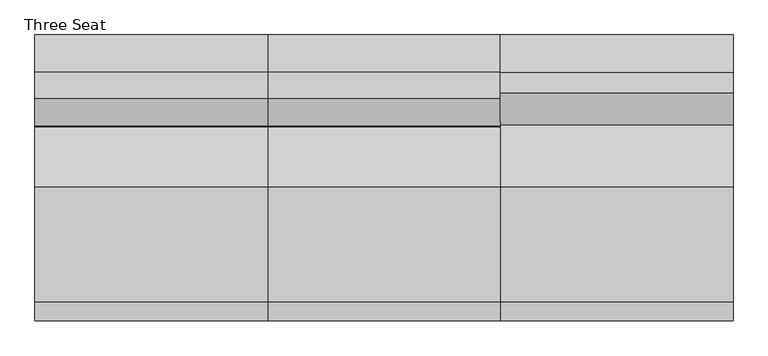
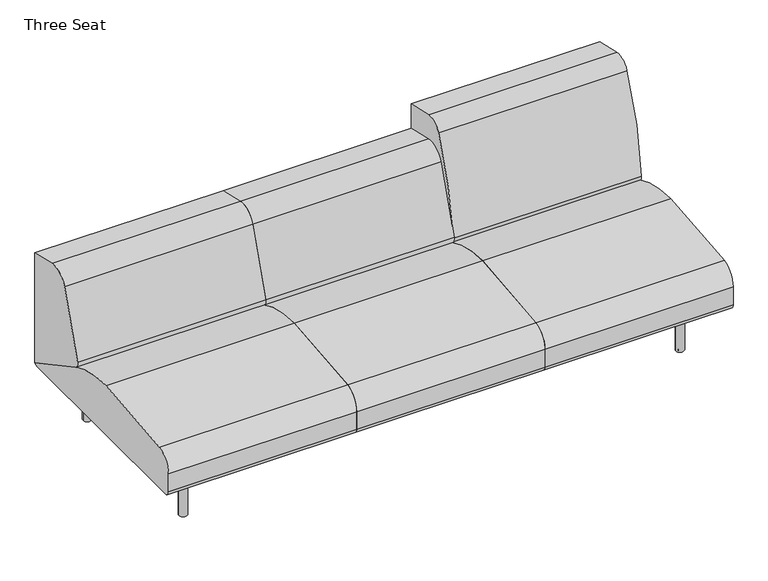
"""IFC4 building model written with IfcOpenShell, lengths in millimetres: furniture geometry, Coalesse_AM_Seating_LoungeChair_Sistema_LegBase_ThreeSeat : Three Seat."""

from ifc_helpers import new_model, si_unit, point, frame, frame_2d, origin, origin_with_axes, place, context, project, spatial, polyline, circle_curve, trimmed, segment, composite_curve, outline, extrude, source, transform, mapped, element, save


def three_seat_c6795c9c(model_context):
    return source(origin(), model_context, "Body", "SweptSolid", [
        extrude(outline(composite_curve([segment(polyline([(459.4795619, 673.6041325), (459.4795619, 228.1929806)]), True, "CONTINUOUS"), segment(trimmed(circle_curve(frame_2d((191.495971, 228.1929806)), 267.983591), [point((459.4795619, 228.1929806))], [point((458.9860775, 211.937276))], False, "CARTESIAN"), True, "CONTINUOUS"), segment(polyline([(458.9860775, 211.937276), (177.4990556, 364.1028799)]), True, "CONTINUOUS"), segment(trimmed(circle_curve(frame_2d((189.5778307, 386.4470781)), 25.4), [point((177.4990556, 364.1028799))], [point((164.9600055, 392.7018911))], False, "CARTESIAN"), True, "CONTINUOUS"), segment(trimmed(circle_curve(frame_2d((1918.112812, -52.7331923)), 1808.8552115), [point((164.9600055, 392.7018911))], [point((254.1018253, 656.5090883))], False, "CARTESIAN"), True, "CONTINUOUS"), segment(trimmed(circle_curve(frame_2d((324.2001043, 626.6314831)), 76.2), [point((254.1018253, 656.5090883))], [point((341.3413746, 700.8784821))], False, "CARTESIAN"), True, "CONTINUOUS"), segment(polyline([(341.3413746, 700.8784821), (459.4795619, 673.6041325)]), True, "CONTINUOUS")], self_intersect=False)), frame((-374.8034773, 0.0, 0.0), z_axis=(1.0, 0.0, 0.0), x_axis=(0.0, 1.0, 0.0)), (0.0, 0.0, 1.0), 749.3),
        extrude(outline(composite_curve([segment(trimmed(circle_curve(frame_2d((-438.9184381, 226.822)), 22.352), [point((-438.9184381, 204.47))], [point((-461.2704381, 226.822))], False, "CARTESIAN"), True, "CONTINUOUS"), segment(polyline([(-461.2704381, 226.822), (-461.2704381, 301.4421993)]), True, "CONTINUOUS"), segment(trimmed(circle_curve(frame_2d((-385.0704381, 301.4421993)), 76.2), [point((-461.2704381, 301.4421993))], [point((-398.9277015, 376.3716077))], False, "CARTESIAN"), True, "CONTINUOUS"), segment(trimmed(circle_curve(frame_2d((2.2103559, -1792.6740646)), 2205.8265729), [point((-398.9277015, 376.3716077))], [point((-31.1968175, 412.8995185))], False, "CARTESIAN"), True, "CONTINUOUS"), segment(trimmed(circle_curve(frame_2d((-24.5128424, -28.3829182)), 441.333054), [point((-31.1968175, 412.8995185))], [point((184.5757008, 360.2774035))], False, "CARTESIAN"), True, "CONTINUOUS"), segment(polyline([(184.5757008, 360.2774035), (458.9860775, 211.937276)]), True, "CONTINUOUS"), segment(trimmed(circle_curve(frame_2d((442.3266309, 226.7871991)), 22.3171991), [point((458.9860775, 211.937276))], [point((442.3266309, 204.47))], False, "CARTESIAN"), True, "CONTINUOUS"), segment(polyline([(442.3266309, 204.47), (-438.9184381, 204.47)]), True, "CONTINUOUS")], self_intersect=False)), frame((-374.8034773, 0.0, 0.0), z_axis=(1.0, 0.0, 0.0), x_axis=(0.0, 1.0, 0.0)), (0.0, 0.0, 1.0), 749.3),
        extrude(outline(composite_curve([segment(polyline([(459.4795619, 673.6041325), (459.4795619, 228.1929806)]), True, "CONTINUOUS"), segment(trimmed(circle_curve(frame_2d((191.495971, 228.1929806)), 267.983591), [point((459.4795619, 228.1929806))], [point((458.9860775, 211.937276))], False, "CARTESIAN"), True, "CONTINUOUS"), segment(polyline([(458.9860775, 211.937276), (177.4990556, 364.1028799)]), True, "CONTINUOUS"), segment(trimmed(circle_curve(frame_2d((189.5778307, 386.4470781)), 25.4), [point((177.4990556, 364.1028799))], [point((164.9600055, 392.7018911))], False, "CARTESIAN"), True, "CONTINUOUS"), segment(trimmed(circle_curve(frame_2d((1918.112812, -52.7331923)), 1808.8552115), [point((164.9600055, 392.7018911))], [point((254.1018253, 656.5090883))], False, "CARTESIAN"), True, "CONTINUOUS"), segment(trimmed(circle_curve(frame_2d((324.2001043, 626.6314831)), 76.2), [point((254.1018253, 656.5090883))], [point((341.3413746, 700.8784821))], False, "CARTESIAN"), True, "CONTINUOUS"), segment(polyline([(341.3413746, 700.8784821), (459.4795619, 673.6041325)]), True, "CONTINUOUS")], self_intersect=False)), frame((374.4965227, 0.0, 0.0), z_axis=(1.0, 0.0, 0.0), x_axis=(0.0, 1.0, 0.0)), (0.0, 0.0, 1.0), 749.3),
        extrude(outline(composite_curve([segment(trimmed(circle_curve(frame_2d((-438.9184381, 226.822)), 22.352), [point((-438.9184381, 204.47))], [point((-461.2704381, 226.822))], False, "CARTESIAN"), True, "CONTINUOUS"), segment(polyline([(-461.2704381, 226.822), (-461.2704381, 301.4421993)]), True, "CONTINUOUS"), segment(trimmed(circle_curve(frame_2d((-385.0704381, 301.4421993)), 76.2), [point((-461.2704381, 301.4421993))], [point((-398.9277015, 376.3716077))], False, "CARTESIAN"), True, "CONTINUOUS"), segment(trimmed(circle_curve(frame_2d((2.2103559, -1792.6740646)), 2205.8265729), [point((-398.9277015, 376.3716077))], [point((-31.1968175, 412.8995185))], False, "CARTESIAN"), True, "CONTINUOUS"), segment(trimmed(circle_curve(frame_2d((-24.5128424, -28.3829182)), 441.333054), [point((-31.1968175, 412.8995185))], [point((184.5757008, 360.2774035))], False, "CARTESIAN"), True, "CONTINUOUS"), segment(polyline([(184.5757008, 360.2774035), (458.9860775, 211.937276)]), True, "CONTINUOUS"), segment(trimmed(circle_curve(frame_2d((442.3266309, 226.7871991)), 22.3171991), [point((458.9860775, 211.937276))], [point((442.3266309, 204.47))], False, "CARTESIAN"), True, "CONTINUOUS"), segment(polyline([(442.3266309, 204.47), (-438.9184381, 204.47)]), True, "CONTINUOUS")], self_intersect=False)), frame((374.4965227, 0.0, 0.0), z_axis=(1.0, 0.0, 0.0), x_axis=(0.0, 1.0, 0.0)), (0.0, 0.0, 1.0), 749.3),
        extrude(outline(composite_curve([segment(polyline([(459.4795619, 775.8234697), (459.4795619, 228.1929806)]), True, "CONTINUOUS"), segment(trimmed(circle_curve(frame_2d((191.495971, 228.1929806)), 267.983591), [point((459.4795619, 228.1929806))], [point((458.9860775, 211.937276))], False, "CARTESIAN"), True, "CONTINUOUS"), segment(polyline([(458.9860775, 211.937276), (183.8457951, 360.6719742)]), True, "CONTINUOUS"), segment(trimmed(circle_curve(frame_2d((195.9245701, 383.0161724)), 25.4), [point((183.8457951, 360.6719742))], [point((170.6161698, 385.1713698))], False, "CARTESIAN"), True, "CONTINUOUS"), segment(trimmed(circle_curve(frame_2d((1327.5544182, 286.6495247)), 1161.1256023), [point((170.6161698, 385.1713698))], [point((271.1088001, 768.4537592))], False, "CARTESIAN"), True, "CONTINUOUS"), segment(trimmed(circle_curve(frame_2d((326.5730192, 743.158661)), 60.96), [point((271.1088001, 768.4537592))], [point((339.9143278, 802.6408523))], False, "CARTESIAN"), True, "CONTINUOUS"), segment(polyline([(339.9143278, 802.6408523), (459.4795619, 775.8234697)]), True, "CONTINUOUS")], self_intersect=False)), frame((1123.7965227, 0.0, 0.0), z_axis=(1.0, 0.0, 0.0), x_axis=(0.0, 1.0, 0.0)), (0.0, 0.0, 1.0), 749.3),
        extrude(outline(composite_curve([segment(trimmed(circle_curve(frame_2d((-438.9184381, 226.822)), 22.352), [point((-438.9184381, 204.47))], [point((-461.2704381, 226.822))], False, "CARTESIAN"), True, "CONTINUOUS"), segment(polyline([(-461.2704381, 226.822), (-461.2704381, 301.4421993)]), True, "CONTINUOUS"), segment(trimmed(circle_curve(frame_2d((-385.0704381, 301.4421993)), 76.2), [point((-461.2704381, 301.4421993))], [point((-398.9277015, 376.3716077))], False, "CARTESIAN"), True, "CONTINUOUS"), segment(trimmed(circle_curve(frame_2d((2.2103559, -1792.6740646)), 2205.8265729), [point((-398.9277015, 376.3716077))], [point((-31.1968175, 412.8995185))], False, "CARTESIAN"), True, "CONTINUOUS"), segment(trimmed(circle_curve(frame_2d((-24.5128424, -28.3829182)), 441.333054), [point((-31.1968175, 412.8995185))], [point((184.5757008, 360.2774035))], False, "CARTESIAN"), True, "CONTINUOUS"), segment(polyline([(184.5757008, 360.2774035), (458.9860775, 211.937276)]), True, "CONTINUOUS"), segment(trimmed(circle_curve(frame_2d((442.3266309, 226.7871991)), 22.3171991), [point((458.9860775, 211.937276))], [point((442.3266309, 204.47))], False, "CARTESIAN"), True, "CONTINUOUS"), segment(polyline([(442.3266309, 204.47), (-438.9184381, 204.47)]), True, "CONTINUOUS")], self_intersect=False)), frame((1123.7965227, 0.0, 0.0), z_axis=(1.0, 0.0, 0.0), x_axis=(0.0, 1.0, 0.0)), (0.0, 0.0, 1.0), 749.3),
        extrude(outline(composite_curve([segment(trimmed(circle_curve(frame_2d((1738.4765227, 335.9943389)), 6.096), [point((1744.5725227, 335.9943389))], [point((1732.3805227, 335.9943389))], False, "CARTESIAN"), True, "CONTINUOUS"), segment(trimmed(circle_curve(frame_2d((1738.4765227, 335.9943389)), 6.096), [point((1732.3805227, 335.9943389))], [point((1744.5725227, 335.9943389))], False, "CARTESIAN"), True, "CONTINUOUS")], self_intersect=False)), origin_with_axes(), (0.0, 0.0, 1.0), 4.3662291),
        extrude(outline(composite_curve([segment(trimmed(circle_curve(frame_2d((1738.4765227, -327.2630889)), 6.096), [point((1744.5725227, -327.2630889))], [point((1732.3805227, -327.2630889))], False, "CARTESIAN"), True, "CONTINUOUS"), segment(trimmed(circle_curve(frame_2d((1738.4765227, -327.2630889)), 6.096), [point((1732.3805227, -327.2630889))], [point((1744.5725227, -327.2630889))], False, "CARTESIAN"), True, "CONTINUOUS")], self_intersect=False)), origin_with_axes(), (0.0, 0.0, 1.0), 4.3662291),
        extrude(outline(composite_curve([segment(polyline([(157.0399209, 1751.056375), (201.7356243, 1751.056375)]), True, "CONTINUOUS"), segment(trimmed(circle_curve(frame_2d((201.7356243, 1748.008375)), 3.048), [point((201.7356243, 1751.056375))], [point((204.7836243, 1748.008375))], False, "CARTESIAN"), True, "CONTINUOUS"), segment(polyline([(204.7836243, 1748.008375), (204.7836243, 1728.666199)]), True, "CONTINUOUS"), segment(trimmed(circle_curve(frame_2d((201.7356243, 1728.666199)), 3.048), [point((204.7836243, 1728.666199))], [point((201.7356243, 1725.618199))], False, "CARTESIAN"), True, "CONTINUOUS"), segment(polyline([(201.7356243, 1725.618199), (157.1249936, 1725.618199)]), True, "CONTINUOUS"), segment(trimmed(circle_curve(frame_2d((157.1249936, 1728.7512718)), 3.1330728), [point((157.1249936, 1725.618199))], [point((153.9919209, 1728.7512718))], False, "CARTESIAN"), True, "CONTINUOUS"), segment(polyline([(153.9919209, 1728.7512718), (153.9919209, 1748.008375)]), True, "CONTINUOUS"), segment(trimmed(circle_curve(frame_2d((157.0399209, 1748.008375)), 3.048), [point((153.9919209, 1748.008375))], [point((157.0399209, 1751.056375))], False, "CARTESIAN"), True, "CONTINUOUS")], self_intersect=False)), frame((0.0, 222.3519802, 0.0), z_axis=(0.0, 1.0, 0.0), x_axis=(0.0, 0.0, 1.0)), (0.0, 0.0, 1.0), 92.6273161),
        extrude(outline(composite_curve([segment(polyline([(157.0399209, 1751.056375), (201.7356243, 1751.056375)]), True, "CONTINUOUS"), segment(trimmed(circle_curve(frame_2d((201.7356243, 1748.008375)), 3.048), [point((201.7356243, 1751.056375))], [point((204.7836243, 1748.008375))], False, "CARTESIAN"), True, "CONTINUOUS"), segment(polyline([(204.7836243, 1748.008375), (204.7836243, 1728.666199)]), True, "CONTINUOUS"), segment(trimmed(circle_curve(frame_2d((201.7356243, 1728.666199)), 3.048), [point((204.7836243, 1728.666199))], [point((201.7356243, 1725.618199))], False, "CARTESIAN"), True, "CONTINUOUS"), segment(polyline([(201.7356243, 1725.618199), (157.1249936, 1725.618199)]), True, "CONTINUOUS"), segment(trimmed(circle_curve(frame_2d((157.1249936, 1728.7512718)), 3.1330728), [point((157.1249936, 1725.618199))], [point((153.9919209, 1728.7512718))], False, "CARTESIAN"), True, "CONTINUOUS"), segment(polyline([(153.9919209, 1728.7512718), (153.9919209, 1748.008375)]), True, "CONTINUOUS"), segment(trimmed(circle_curve(frame_2d((157.0399209, 1748.008375)), 3.048), [point((153.9919209, 1748.008375))], [point((157.0399209, 1751.056375))], False, "CARTESIAN"), True, "CONTINUOUS")], self_intersect=False)), frame((0.0, -314.9792963, 0.0), z_axis=(0.0, 1.0, 0.0), x_axis=(0.0, 0.0, 1.0)), (0.0, 0.0, 1.0), 92.6273161),
        extrude(outline(composite_curve([segment(trimmed(circle_curve(frame_2d((176.3356606, 1715.8259944)), 3.048), [point((179.3836606, 1715.8259944))], [point((176.3356606, 1712.7779944))], False, "CARTESIAN"), True, "CONTINUOUS"), segment(polyline([(176.3356606, 1712.7779944), (157.0399209, 1712.7779944)]), True, "CONTINUOUS"), segment(trimmed(circle_curve(frame_2d((157.0399209, 1715.8259944)), 3.048), [point((157.0399209, 1712.7779944))], [point((153.9919209, 1715.8259944))], False, "CARTESIAN"), True, "CONTINUOUS"), segment(polyline([(153.9919209, 1715.8259944), (153.9919209, 1760.5135501)]), True, "CONTINUOUS"), segment(trimmed(circle_curve(frame_2d((157.056462, 1760.5135501)), 3.0645412), [point((153.9919209, 1760.5135501))], [point((157.056462, 1763.5780913))], False, "CARTESIAN"), True, "CONTINUOUS"), segment(polyline([(157.056462, 1763.5780913), (176.3356606, 1763.5780913)]), True, "CONTINUOUS"), segment(trimmed(circle_curve(frame_2d((176.3356606, 1760.5300913)), 3.048), [point((176.3356606, 1763.5780913))], [point((179.3836606, 1760.5300913))], False, "CARTESIAN"), True, "CONTINUOUS"), segment(polyline([(179.3836606, 1760.5300913), (179.3836606, 1715.8259944)]), True, "CONTINUOUS")], self_intersect=False)), frame((0.0, -222.3519802, 0.0), z_axis=(0.0, 1.0, 0.0), x_axis=(0.0, 0.0, 1.0)), (0.0, 0.0, 1.0), 444.7039604),
        extrude(outline(composite_curve([segment(trimmed(circle_curve(frame_2d((1738.4765227, 332.3095741)), 16.51), [point((1754.9865227, 332.3095741))], [point((1721.9665227, 332.3095741))], False, "CARTESIAN"), True, "CONTINUOUS"), segment(trimmed(circle_curve(frame_2d((1738.4765227, 332.3095741)), 16.51), [point((1721.9665227, 332.3095741))], [point((1754.9865227, 332.3095741))], False, "CARTESIAN"), True, "CONTINUOUS")], self_intersect=False)), frame((0.0, 0.0, 4.3662291), z_axis=(0.0, 0.0, 1.0), x_axis=(1.0, 0.0, 0.0)), (0.0, 0.0, 1.0), 200.1037709),
        extrude(outline(composite_curve([segment(trimmed(circle_curve(frame_2d((1738.0796477, -327.5470741)), 16.51), [point((1754.5896477, -327.5470741))], [point((1721.5696477, -327.5470741))], False, "CARTESIAN"), True, "CONTINUOUS"), segment(trimmed(circle_curve(frame_2d((1738.0796477, -327.5470741)), 16.51), [point((1721.5696477, -327.5470741))], [point((1754.5896477, -327.5470741))], False, "CARTESIAN"), True, "CONTINUOUS")], self_intersect=False)), frame((0.0, 0.0, 4.3662291), z_axis=(0.0, 0.0, 1.0), x_axis=(1.0, 0.0, 0.0)), (0.0, 0.0, 1.0), 200.1037709),
        extrude(outline(composite_curve([segment(trimmed(circle_curve(frame_2d((-240.1834773, 335.9943389)), 6.096), [point((-246.2794773, 335.9943389))], [point((-234.0874773, 335.9943389))], False, "CARTESIAN"), True, "CONTINUOUS"), segment(trimmed(circle_curve(frame_2d((-240.1834773, 335.9943389)), 6.096), [point((-234.0874773, 335.9943389))], [point((-246.2794773, 335.9943389))], False, "CARTESIAN"), True, "CONTINUOUS")], self_intersect=False)), origin_with_axes(), (0.0, 0.0, 1.0), 4.3662291),
        extrude(outline(composite_curve([segment(trimmed(circle_curve(frame_2d((-240.1834773, -327.2630889)), 6.096), [point((-246.2794773, -327.2630889))], [point((-234.0874773, -327.2630889))], False, "CARTESIAN"), True, "CONTINUOUS"), segment(trimmed(circle_curve(frame_2d((-240.1834773, -327.2630889)), 6.096), [point((-234.0874773, -327.2630889))], [point((-246.2794773, -327.2630889))], False, "CARTESIAN"), True, "CONTINUOUS")], self_intersect=False)), origin_with_axes(), (0.0, 0.0, 1.0), 4.3662291),
        extrude(outline(composite_curve([segment(trimmed(circle_curve(frame_2d((157.0399209, -249.7153296)), 3.048), [point((157.0399209, -252.7633296))], [point((153.9919209, -249.7153296))], False, "CARTESIAN"), True, "CONTINUOUS"), segment(polyline([(153.9919209, -249.7153296), (153.9919209, -230.4582264)]), True, "CONTINUOUS"), segment(trimmed(circle_curve(frame_2d((157.1249936, -230.4582264)), 3.1330728), [point((153.9919209, -230.4582264))], [point((157.1249936, -227.3251537))], False, "CARTESIAN"), True, "CONTINUOUS"), segment(polyline([(157.1249936, -227.3251537), (201.7356243, -227.3251537)]), True, "CONTINUOUS"), segment(trimmed(circle_curve(frame_2d((201.7356243, -230.3731537)), 3.048), [point((201.7356243, -227.3251537))], [point((204.7836243, -230.3731537))], False, "CARTESIAN"), True, "CONTINUOUS"), segment(polyline([(204.7836243, -230.3731537), (204.7836243, -249.7153296)]), True, "CONTINUOUS"), segment(trimmed(circle_curve(frame_2d((201.7356243, -249.7153296)), 3.048), [point((204.7836243, -249.7153296))], [point((201.7356243, -252.7633296))], False, "CARTESIAN"), True, "CONTINUOUS"), segment(polyline([(201.7356243, -252.7633296), (157.0399209, -252.7633296)]), True, "CONTINUOUS")], self_intersect=False)), frame((0.0, 222.3519802, 0.0), z_axis=(0.0, 1.0, 0.0), x_axis=(0.0, 0.0, 1.0)), (0.0, 0.0, 1.0), 92.6273161),
        extrude(outline(composite_curve([segment(trimmed(circle_curve(frame_2d((157.0399209, -249.7153296)), 3.048), [point((157.0399209, -252.7633296))], [point((153.9919209, -249.7153296))], False, "CARTESIAN"), True, "CONTINUOUS"), segment(polyline([(153.9919209, -249.7153296), (153.9919209, -230.4582264)]), True, "CONTINUOUS"), segment(trimmed(circle_curve(frame_2d((157.1249936, -230.4582264)), 3.1330728), [point((153.9919209, -230.4582264))], [point((157.1249936, -227.3251537))], False, "CARTESIAN"), True, "CONTINUOUS"), segment(polyline([(157.1249936, -227.3251537), (201.7356243, -227.3251537)]), True, "CONTINUOUS"), segment(trimmed(circle_curve(frame_2d((201.7356243, -230.3731537)), 3.048), [point((201.7356243, -227.3251537))], [point((204.7836243, -230.3731537))], False, "CARTESIAN"), True, "CONTINUOUS"), segment(polyline([(204.7836243, -230.3731537), (204.7836243, -249.7153296)]), True, "CONTINUOUS"), segment(trimmed(circle_curve(frame_2d((201.7356243, -249.7153296)), 3.048), [point((204.7836243, -249.7153296))], [point((201.7356243, -252.7633296))], False, "CARTESIAN"), True, "CONTINUOUS"), segment(polyline([(201.7356243, -252.7633296), (157.0399209, -252.7633296)]), True, "CONTINUOUS")], self_intersect=False)), frame((0.0, -314.9792963, 0.0), z_axis=(0.0, 1.0, 0.0), x_axis=(0.0, 0.0, 1.0)), (0.0, 0.0, 1.0), 92.6273161),
        extrude(outline(composite_curve([segment(polyline([(179.3836606, -217.532949), (179.3836606, -262.2370459)]), True, "CONTINUOUS"), segment(trimmed(circle_curve(frame_2d((176.3356606, -262.2370459)), 3.048), [point((179.3836606, -262.2370459))], [point((176.3356606, -265.2850459))], False, "CARTESIAN"), True, "CONTINUOUS"), segment(polyline([(176.3356606, -265.2850459), (157.056462, -265.2850459)]), True, "CONTINUOUS"), segment(trimmed(circle_curve(frame_2d((157.056462, -262.2205047)), 3.0645412), [point((157.056462, -265.2850459))], [point((153.9919209, -262.2205047))], False, "CARTESIAN"), True, "CONTINUOUS"), segment(polyline([(153.9919209, -262.2205047), (153.9919209, -217.532949)]), True, "CONTINUOUS"), segment(trimmed(circle_curve(frame_2d((157.0399209, -217.532949)), 3.048), [point((153.9919209, -217.532949))], [point((157.0399209, -214.484949))], False, "CARTESIAN"), True, "CONTINUOUS"), segment(polyline([(157.0399209, -214.484949), (176.3356606, -214.484949)]), True, "CONTINUOUS"), segment(trimmed(circle_curve(frame_2d((176.3356606, -217.532949)), 3.048), [point((176.3356606, -214.484949))], [point((179.3836606, -217.532949))], False, "CARTESIAN"), True, "CONTINUOUS")], self_intersect=False)), frame((0.0, -222.3519802, 0.0), z_axis=(0.0, 1.0, 0.0), x_axis=(0.0, 0.0, 1.0)), (0.0, 0.0, 1.0), 444.7039604),
        extrude(outline(composite_curve([segment(trimmed(circle_curve(frame_2d((-240.1834773, 332.3095741)), 16.51), [point((-256.6934773, 332.3095741))], [point((-223.6734773, 332.3095741))], False, "CARTESIAN"), True, "CONTINUOUS"), segment(trimmed(circle_curve(frame_2d((-240.1834773, 332.3095741)), 16.51), [point((-223.6734773, 332.3095741))], [point((-256.6934773, 332.3095741))], False, "CARTESIAN"), True, "CONTINUOUS")], self_intersect=False)), frame((0.0, 0.0, 4.3662291), z_axis=(0.0, 0.0, 1.0), x_axis=(1.0, 0.0, 0.0)), (0.0, 0.0, 1.0), 200.1037709),
        extrude(outline(composite_curve([segment(trimmed(circle_curve(frame_2d((-239.7866023, -327.5470741)), 16.51), [point((-256.2966023, -327.5470741))], [point((-223.2766023, -327.5470741))], False, "CARTESIAN"), True, "CONTINUOUS"), segment(trimmed(circle_curve(frame_2d((-239.7866023, -327.5470741)), 16.51), [point((-223.2766023, -327.5470741))], [point((-256.2966023, -327.5470741))], False, "CARTESIAN"), True, "CONTINUOUS")], self_intersect=False)), frame((0.0, 0.0, 4.3662291), z_axis=(0.0, 0.0, 1.0), x_axis=(1.0, 0.0, 0.0)), (0.0, 0.0, 1.0), 200.1037709),
    ])


if __name__ == "__main__":
    model = new_model("IFC4")
    model_context = context("Model", 3, world=origin())
    ifc_project = project(units=[si_unit("LENGTHUNIT", "METRE", prefix="MILLI")], contexts=[model_context])
    site = spatial("IfcSite", under=ifc_project)
    building = spatial("IfcBuilding", under=site)
    placement = place(None, origin())
    three_seat_shape = three_seat_c6795c9c(model_context)
    element("IfcFurniture", 1, ObjectType="Coalesse_AM_Seating_LoungeChair_Sistema_LegBase_ThreeSeat : Three Seat", at=placement, inside=building, context=model_context, shape_type="MappedRepresentation", body=[
        mapped(three_seat_shape, transform((0.0, 0.0, 0.0), x_axis=(1.0, 0.0, 0.0), y_axis=(0.0, 1.0, 0.0), z_axis=(0.0, 0.0, 1.0))),
    ])
    save(model, "model.ifc")
